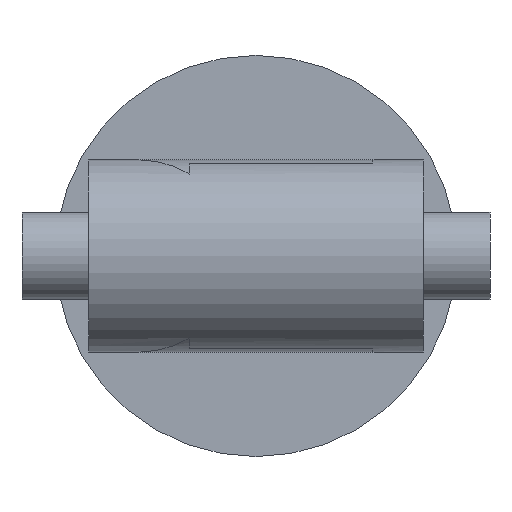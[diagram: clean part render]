
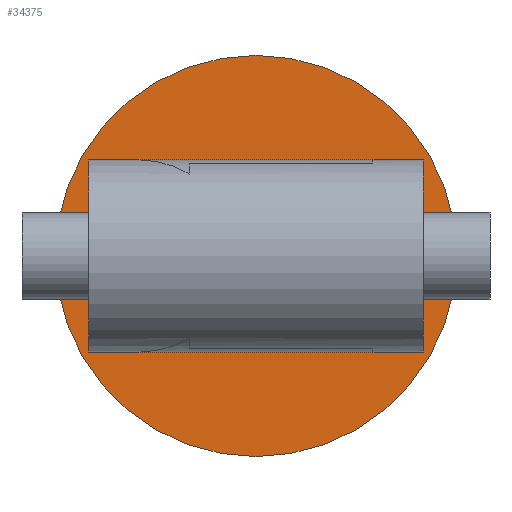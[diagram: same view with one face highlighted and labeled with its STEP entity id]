
A CAD part, front view. The second image highlights one B-rep face of the part: STEP entity #34375.
In plain terms, the highlighted planar face has unit normal (0, -1, 0).
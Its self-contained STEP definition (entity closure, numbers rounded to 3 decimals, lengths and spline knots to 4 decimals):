
#371 = EDGE_LOOP ( 'NONE', ( #33724 ) ) ;
#627 = CARTESIAN_POINT ( 'NONE',  ( 0., 16.72, -3. ) ) ;
#2053 = EDGE_CURVE ( 'NONE', #19007, #19007, #18136, .T. ) ;
#2097 = AXIS2_PLACEMENT_3D ( 'NONE', #38837, #42078, #42323 ) ;
#3400 = FACE_OUTER_BOUND ( 'NONE', #14073, .T. ) ;
#5471 = AXIS2_PLACEMENT_3D ( 'NONE', #36598, #29398, #40830 ) ;
#10550 = AXIS2_PLACEMENT_3D ( 'NONE', #29526, #25809, #44643 ) ;
#14073 = EDGE_LOOP ( 'NONE', ( #37890 ) ) ;
#18136 = CIRCLE ( 'NONE', #5471, 3. ) ;
#18527 = PLANE ( 'NONE',  #2097 ) ;
#19007 = VERTEX_POINT ( 'NONE', #627 ) ;
#22256 = FACE_BOUND ( 'NONE', #371, .T. ) ;
#25652 = CARTESIAN_POINT ( 'NONE',  ( 0., 16.72, -0.1875 ) ) ;
#25809 = DIRECTION ( 'NONE',  ( 0., -1., 0. ) ) ;
#28998 = EDGE_CURVE ( 'NONE', #33333, #33333, #34299, .T. ) ;
#29398 = DIRECTION ( 'NONE',  ( 0., -1., 0. ) ) ;
#29526 = CARTESIAN_POINT ( 'NONE',  ( 0., 16.72, 0. ) ) ;
#33333 = VERTEX_POINT ( 'NONE', #25652 ) ;
#33724 = ORIENTED_EDGE ( 'NONE', *, *, #28998, .F. ) ;
#34299 = CIRCLE ( 'NONE', #10550, 0.1875 ) ;
#34375 = ADVANCED_FACE ( 'NONE', ( #22256, #3400 ), #18527, .F. ) ;
#36598 = CARTESIAN_POINT ( 'NONE',  ( 0., 16.72, 0. ) ) ;
#37890 = ORIENTED_EDGE ( 'NONE', *, *, #2053, .T. ) ;
#38837 = CARTESIAN_POINT ( 'NONE',  ( -3., 16.72, 0. ) ) ;
#40830 = DIRECTION ( 'NONE',  ( 0., 0., -1. ) ) ;
#42078 = DIRECTION ( 'NONE',  ( 0., 1., 0. ) ) ;
#42323 = DIRECTION ( 'NONE',  ( 0., 0., 1. ) ) ;
#44643 = DIRECTION ( 'NONE',  ( 0., 0., -1. ) ) ;
